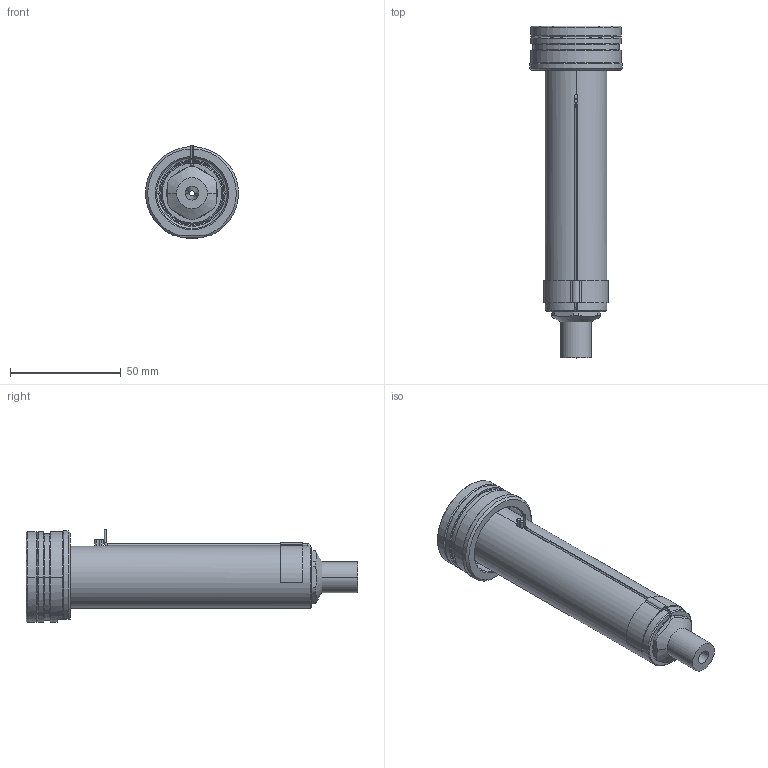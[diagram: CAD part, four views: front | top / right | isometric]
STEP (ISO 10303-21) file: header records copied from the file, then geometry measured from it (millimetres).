
FILE_DESCRIPTION((''),'2;1');
FILE_NAME('EO10_SG_ESG_120_SW','2024-02-19T12:26:34',('sundharh'),(''),'CREO PARAMETRIC BY PTC INC, 2023154','CREO PARAMETRIC BY PTC INC, 2023154','');
FILE_SCHEMA(('CONFIG_CONTROL_DESIGN'));
Length unit declared in the file: millimetre
Products named in the file (1): EO10_SG_ESG_120_SW
Bounding box: 41.85 x 150 x 42.02 mm (x, y, z)
Volume: 84573.8 mm3; surface area: 23361.3 mm2
Topology: 1 solids, 1 shells, 159 faces, 399 edges, 245 vertices
Faces by surface type: cylinder 63, plane 44, cone 29, torus 17, bspline 3, sphere 3
Entity records: 5413 total; most frequent: CARTESIAN_POINT 1536, DIRECTION 849, ORIENTED_EDGE 786, EDGE_CURVE 393, AXIS2_PLACEMENT_3D 350, VERTEX_POINT 245, CIRCLE 194, EDGE_LOOP 174
